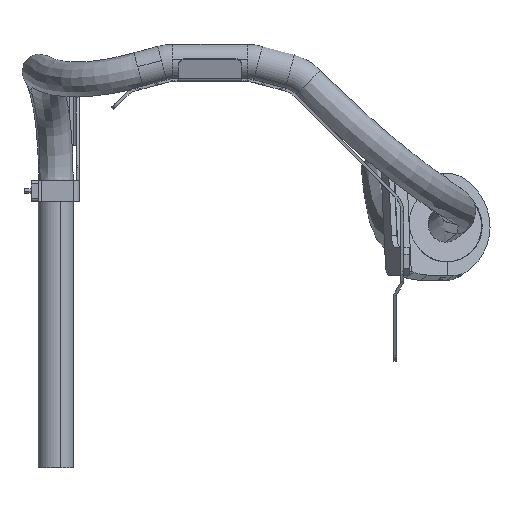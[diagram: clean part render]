
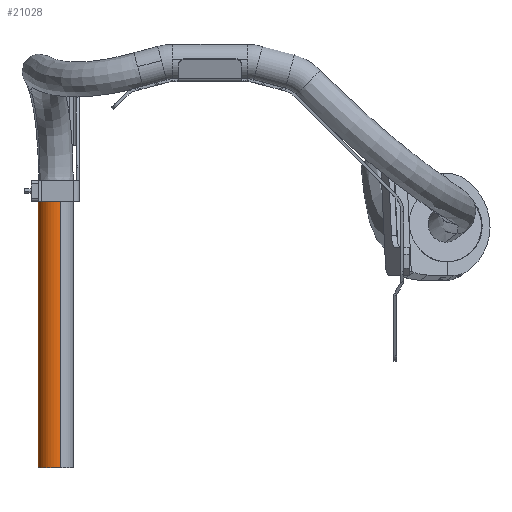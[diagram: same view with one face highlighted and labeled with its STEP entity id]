
A CAD part, left-side view. The second image highlights one B-rep face of the part: STEP entity #21028.
In plain terms, the highlighted cylindrical face has radius 25 mm (diameter 50 mm), a partial arc.
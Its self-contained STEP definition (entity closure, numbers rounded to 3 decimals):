
#66 = CARTESIAN_POINT ( 'NONE',  ( -17.148, 18.53, 714.5 ) ) ;
#619 = AXIS2_PLACEMENT_3D ( 'NONE', #20825, #5782, #18811 ) ;
#1006 = ORIENTED_EDGE ( 'NONE', *, *, #20318, .F. ) ;
#1368 = ORIENTED_EDGE ( 'NONE', *, *, #6735, .T. ) ;
#1628 = DIRECTION ( 'NONE',  ( 0., 0., -1. ) ) ;
#1776 = DIRECTION ( 'NONE',  ( 0., 0., -1. ) ) ;
#1931 = ORIENTED_EDGE ( 'NONE', *, *, #5929, .T. ) ;
#2379 = LINE ( 'NONE', #2719, #5291 ) ;
#2494 = DIRECTION ( 'NONE',  ( 0., 0., -1. ) ) ;
#2719 = CARTESIAN_POINT ( 'NONE',  ( 31.148, 31.47, 744.5 ) ) ;
#4693 = CARTESIAN_POINT ( 'NONE',  ( 31.148, 31.47, 335.97 ) ) ;
#5291 = VECTOR ( 'NONE', #2494, 1000. ) ;
#5749 = ORIENTED_EDGE ( 'NONE', *, *, #15269, .F. ) ;
#5782 = DIRECTION ( 'NONE',  ( 0., 0., -1. ) ) ;
#5929 = EDGE_CURVE ( 'NONE', #17014, #11790, #2379, .T. ) ;
#6202 = VERTEX_POINT ( 'NONE', #66 ) ;
#6391 = AXIS2_PLACEMENT_3D ( 'NONE', #6484, #19632, #8025 ) ;
#6484 = CARTESIAN_POINT ( 'NONE',  ( 7., 25., 714.5 ) ) ;
#6735 = EDGE_CURVE ( 'NONE', #6202, #17014, #10581, .T. ) ;
#6951 = CIRCLE ( 'NONE', #619, 25. ) ;
#8025 = DIRECTION ( 'NONE',  ( 1., 0., 0. ) ) ;
#8048 = CYLINDRICAL_SURFACE ( 'NONE', #19582, 25. ) ;
#9561 = CARTESIAN_POINT ( 'NONE',  ( -17.148, 18.53, 335.97 ) ) ;
#10581 = CIRCLE ( 'NONE', #6391, 25. ) ;
#11790 = VERTEX_POINT ( 'NONE', #4693 ) ;
#11925 = CARTESIAN_POINT ( 'NONE',  ( 31.148, 31.47, 714.5 ) ) ;
#12124 = VECTOR ( 'NONE', #1776, 1000. ) ;
#15269 = EDGE_CURVE ( 'NONE', #6202, #16579, #20351, .T. ) ;
#15332 = CARTESIAN_POINT ( 'NONE',  ( -17.148, 18.53, 744.5 ) ) ;
#16386 = FACE_OUTER_BOUND ( 'NONE', #16760, .T. ) ;
#16579 = VERTEX_POINT ( 'NONE', #9561 ) ;
#16692 = CARTESIAN_POINT ( 'NONE',  ( 7., 25., 744.5 ) ) ;
#16760 = EDGE_LOOP ( 'NONE', ( #1368, #1931, #1006, #5749 ) ) ;
#17014 = VERTEX_POINT ( 'NONE', #11925 ) ;
#18811 = DIRECTION ( 'NONE',  ( 0.428, -0.904, 0. ) ) ;
#19582 = AXIS2_PLACEMENT_3D ( 'NONE', #16692, #1628, #21419 ) ;
#19632 = DIRECTION ( 'NONE',  ( 0., 0., -1. ) ) ;
#20318 = EDGE_CURVE ( 'NONE', #16579, #11790, #6951, .T. ) ;
#20351 = LINE ( 'NONE', #15332, #12124 ) ;
#20825 = CARTESIAN_POINT ( 'NONE',  ( 7., 25., 335.97 ) ) ;
#21028 = ADVANCED_FACE ( 'NONE', ( #16386 ), #8048, .T. ) ;
#21419 = DIRECTION ( 'NONE',  ( -0.966, -0.259, 0. ) ) ;
